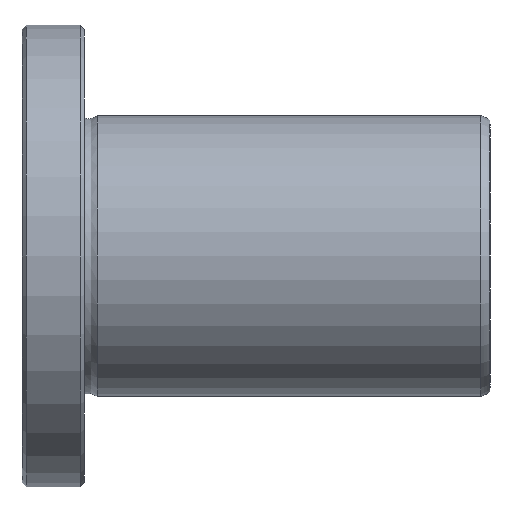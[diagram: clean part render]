
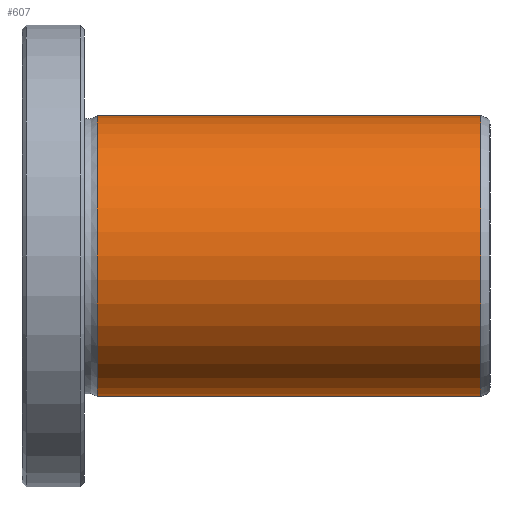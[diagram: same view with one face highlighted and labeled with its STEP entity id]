
A CAD part, front view. The second image highlights one B-rep face of the part: STEP entity #607.
In plain terms, the highlighted cylindrical face has radius 22.5 mm (diameter 45 mm), a full revolution.
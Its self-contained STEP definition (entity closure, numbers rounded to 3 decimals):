
#573=CARTESIAN_POINT('',(73.502,0.0,22.5));
#574=VERTEX_POINT('',#573);
#575=CARTESIAN_POINT('',(73.502,0.0,0.0));
#576=DIRECTION('',(-1.0,0.0,0.0));
#577=DIRECTION('',(0.0,0.0,1.0));
#578=AXIS2_PLACEMENT_3D('',#575,#576,#577);
#579=CIRCLE('',#578,22.5);
#580=EDGE_CURVE('',#574,#574,#579,.T.);
#588=CARTESIAN_POINT('',(42.762,0.0,0.0));
#589=DIRECTION('',(-1.0,0.0,0.0));
#590=DIRECTION('',(0.0,0.0,1.0));
#591=AXIS2_PLACEMENT_3D('',#588,#589,#590);
#592=CYLINDRICAL_SURFACE('',#591,22.5);
#593=CARTESIAN_POINT('',(12.023,0.0,22.5));
#594=VERTEX_POINT('',#593);
#595=CARTESIAN_POINT('',(12.023,0.0,0.0));
#596=DIRECTION('',(-1.0,0.0,0.0));
#597=DIRECTION('',(0.0,0.0,1.0));
#598=AXIS2_PLACEMENT_3D('',#595,#596,#597);
#599=CIRCLE('',#598,22.5);
#600=EDGE_CURVE('',#594,#594,#599,.T.);
#601=ORIENTED_EDGE('',*,*,#600,.F.);
#602=EDGE_LOOP('',(#601));
#603=FACE_OUTER_BOUND('',#602,.T.);
#604=ORIENTED_EDGE('',*,*,#580,.T.);
#605=EDGE_LOOP('',(#604));
#606=FACE_BOUND('',#605,.T.);
#607=ADVANCED_FACE('',(#603,#606),#592,.T.);
